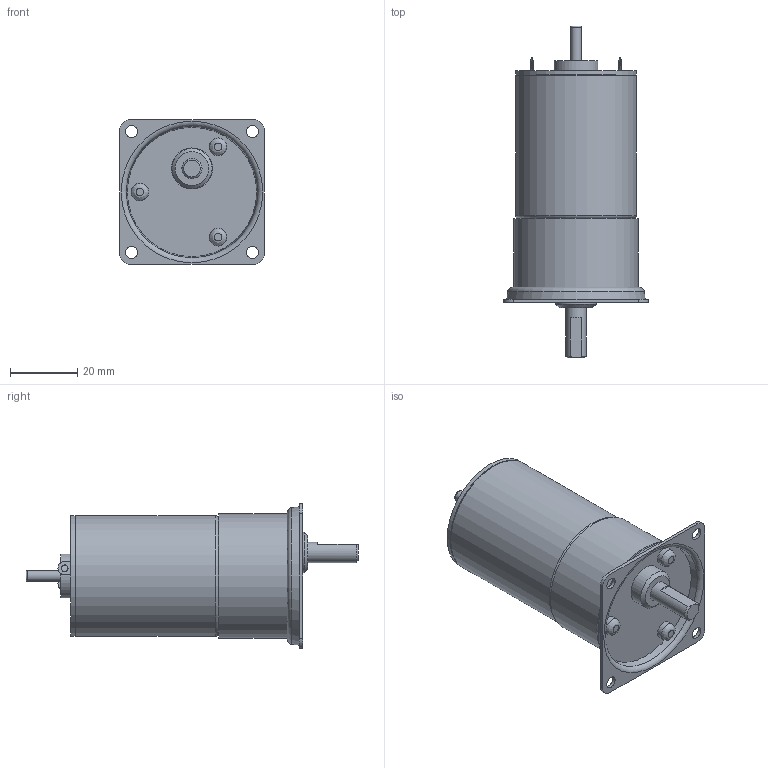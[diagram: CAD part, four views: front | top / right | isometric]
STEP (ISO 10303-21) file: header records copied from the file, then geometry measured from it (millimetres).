
FILE_DESCRIPTION((''),'2;1');
FILE_NAME('C:\Documents and Settings\SSEGAWA\デスクトップ\TP-3644L-PG-2.STP','2013-07-26T18:46:15',('SSEGAWA'),(''),'Autodesk Inventor 2010','Autodesk Inventor 2010','');
FILE_SCHEMA(('CONFIG_CONTROL_DESIGN'));
Length unit declared in the file: millimetre
Products named in the file (1): tp_3644l_pg_2_Shrinkwrap_1
Bounding box: 43 x 98.8 x 43 mm (x, y, z)
Volume: 70222.7 mm3; surface area: 13927.7 mm2
Topology: 1 solids, 12 shells, 105 faces, 209 edges, 139 vertices
Faces by surface type: plane 47, cylinder 27, bspline 23, torus 4, cone 4
Full cylindrical faces by diameter (mm): 3 x1, 3.175 x1, 3.5 x1, 4 x3, 5.3 x3, 6 x1, 12 x1, 12.2 x1, 13 x1, 35.6 x1, 36 x2, 37 x1
Entity records: 2825 total; most frequent: CARTESIAN_POINT 837, DIRECTION 397, ORIENTED_EDGE 278, AXIS2_PLACEMENT_3D 177, EDGE_LOOP 175, EDGE_CURVE 139, VERTEX_POINT 116, STYLED_ITEM 106
